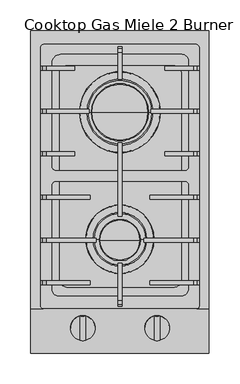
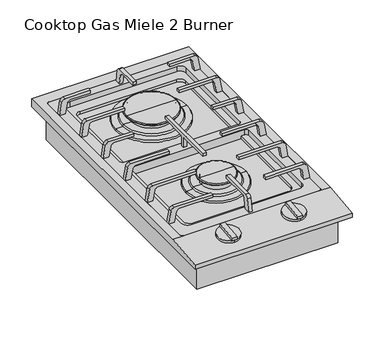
"""IFC4 building model written with IfcOpenShell, lengths in millimetres: proxy geometry, Cooktop Gas Miele 2 Burner : 288w x 57h x 520d."""

from ifc_helpers import new_model, si_unit, point, frame, frame_2d, origin, place, context, project, spatial, polyline, circle_curve, ellipse_curve, trimmed, segment, composite_curve, outline, extrude, source, transform, mapped, element, save
from ifc_brep_helpers import plane_surface, cylinder_surface, revolved_surface, advanced_brep


def cooktop_gas_miele_2_burner_c7116c69(model_context):
    return source(origin(), model_context, "Body", "SolidModel", [
        extrude(outline(polyline([(104.0, 229.0), (104.0, 209.0), (74.0, 209.0), (74.0, 229.0), (104.0, 229.0)])), frame((0.0, 0.0, 823.0), z_axis=(0.0, 0.0, 1.0), x_axis=(1.0, 0.0, 0.0)), (0.0, 0.0, 1.0), 20.0),
        extrude(outline(composite_curve([segment(trimmed(circle_curve(frame_2d((-105.0, 199.0)), 7.5), [point((-97.5, 199.0))], [point((-112.5, 199.0))], False, "CARTESIAN"), True, "CONTINUOUS"), segment(trimmed(circle_curve(frame_2d((-105.0, 199.0)), 7.5), [point((-112.5, 199.0))], [point((-97.5, 199.0))], False, "CARTESIAN"), True, "CONTINUOUS")], self_intersect=False)), frame((0.0, 0.0, 823.0), z_axis=(0.0, 0.0, 1.0), x_axis=(1.0, 0.0, 0.0)), (0.0, 0.0, 1.0), 20.0),
        advanced_brep(
        [(37.0595328, 128.75, 905.0), (-37.0595328, 128.75, 905.0), (-65.0, 128.75, 905.0), (65.0, 128.75, 905.0), (51.3290776, 128.75, 912.7121885), (-51.3290776, 128.75, 912.7121885), (-37.0595328, 128.75, 912.7121885), (37.0595328, 128.75, 912.7121885), (51.3290776, 128.75, 908.8560943), (-51.3290776, 128.75, 908.8560943), (65.0, 128.75, 908.8560943), (-65.0, 128.75, 908.8560943)],
        [
            (0, 1, circle_curve(frame((0.0, 128.75, 905.0), z_axis=(0.0, 0.0, 1.0), x_axis=(-1.0, 0.0, 0.0)), 37.0595328)),
            (1, 2),
            (2, 3, circle_curve(frame((0.0, 128.75, 905.0), z_axis=(0.0, 0.0, -1.0), x_axis=(-1.0, 0.0, 0.0)), 65.0)),
            (3, 0),
            (1, 0, circle_curve(frame((0.0, 128.75, 905.0), z_axis=(0.0, 0.0, 1.0), x_axis=(-1.0, 0.0, 0.0)), 37.0595328)),
            (3, 2, circle_curve(frame((0.0, 128.75, 905.0), z_axis=(0.0, 0.0, -1.0), x_axis=(-1.0, 0.0, 0.0)), 65.0)),
            (4, 5, circle_curve(frame((0.0, 128.75, 912.7121885), z_axis=(0.0, 0.0, 1.0), x_axis=(-1.0, 0.0, 0.0)), 51.3290776)),
            (5, 6),
            (6, 7, circle_curve(frame((0.0, 128.75, 912.7121885), z_axis=(0.0, 0.0, -1.0), x_axis=(-1.0, 0.0, 0.0)), 37.0595328)),
            (7, 4),
            (5, 4, circle_curve(frame((0.0, 128.75, 912.7121885), z_axis=(0.0, 0.0, 1.0), x_axis=(-1.0, 0.0, 0.0)), 51.3290776)),
            (7, 6, circle_curve(frame((0.0, 128.75, 912.7121885), z_axis=(0.0, 0.0, -1.0), x_axis=(-1.0, 0.0, 0.0)), 37.0595328)),
            (8, 9, circle_curve(frame((0.0, 128.75, 908.8560943), z_axis=(0.0, 0.0, 1.0), x_axis=(-1.0, 0.0, 0.0)), 51.3290776)),
            (9, 5, circle_curve(frame((-51.3290776, 128.75, 910.7841414), z_axis=(0.0, 1.0, 0.0), x_axis=(1.0, 0.0, 0.0)), 1.9280471)),
            (4, 8, circle_curve(frame((51.3290776, 128.75, 910.7841414), z_axis=(0.0, 1.0, 0.0), x_axis=(-1.0, 0.0, 0.0)), 1.9280471)),
            (9, 8, circle_curve(frame((0.0, 128.75, 908.8560943), z_axis=(0.0, 0.0, 1.0), x_axis=(-1.0, 0.0, 0.0)), 51.3290776)),
            (10, 11, circle_curve(frame((0.0, 128.75, 908.8560943), z_axis=(0.0, 0.0, 1.0), x_axis=(-1.0, 0.0, 0.0)), 65.0)),
            (11, 9),
            (8, 10),
            (11, 10, circle_curve(frame((0.0, 128.75, 908.8560943), z_axis=(0.0, 0.0, 1.0), x_axis=(-1.0, 0.0, 0.0)), 65.0)),
            (6, 1),
            (0, 7),
            (2, 11, circle_curve(frame((-60.8160662, 128.75, 906.9280471), z_axis=(0.0, 1.0, 0.0), x_axis=(1.0, 0.0, 0.0)), 4.6068066)),
            (10, 3, circle_curve(frame((60.8160662, 128.75, 906.9280471), z_axis=(0.0, 1.0, 0.0), x_axis=(-1.0, 0.0, 0.0)), 4.6068066)),
        ],
        [
            plane_surface(frame((0.0, 128.75, 905.0), z_axis=(0.0, 0.0, -1.0), x_axis=(-1.0, 0.0, 0.0))),
            plane_surface(frame((0.0, 128.75, 912.7121885), z_axis=(0.0, 0.0, 1.0), x_axis=(-1.0, 0.0, 0.0))),
            revolved_surface(trimmed(ellipse_curve(frame((-51.3290776, 128.75, 910.7841414), z_axis=(0.0, -1.0, 0.0), x_axis=(1.0, 0.0, 0.0)), 1.9280471, 1.9280471), [point((-51.3290776, 128.75, 912.7121885))], [point((-51.3290776, 128.75, 908.8560943))], True, "CARTESIAN"), (0.0, 128.75, 912.7121885), (0.0, 0.0, -1.0)),
            plane_surface(frame((0.0, 128.75, 908.8560943), z_axis=(0.0, 0.0, 1.0), x_axis=(-1.0, 0.0, 0.0))),
            revolved_surface(polyline([(-37.0595328, 128.75, 905.0), (-37.0595328, 128.75, 912.7121885)]), (0.0, 128.75, 912.7121885), (0.0, 0.0, -1.0)),
            revolved_surface(trimmed(ellipse_curve(frame((-60.8160662, 128.75, 906.9280471), z_axis=(0.0, -1.0, 0.0), x_axis=(1.0, 0.0, 0.0)), 4.6068066, 4.6068066), [point((-65.0, 128.75, 908.8560943))], [point((-65.0, 128.75, 905.0))], True, "CARTESIAN"), (0.0, 128.75, 912.7121885), (0.0, 0.0, -1.0)),
        ],
        [
            (0, [[1, 2, 3, 4]]),
            (0, [[5, -4, 6, -2]]),
            (1, [[7, 8, 9, 10]]),
            (1, [[11, -10, 12, -8]]),
            (2, [[13, 14, -7, 15]]),
            (2, [[16, -15, -11, -14]]),
            (3, [[17, 18, -13, 19]]),
            (3, [[20, -19, -16, -18]]),
            (4, [[-9, 21, -1, 22]]),
            (4, [[-12, -22, -5, -21]]),
            (5, [[-3, 23, -17, 24]]),
            (5, [[-6, -24, -20, -23]]),
        ],
    ),
        advanced_brep(
        [(144.0, 260.0, 915.0), (-144.0, 260.0, 915.0), (-144.0, -188.6167035, 915.0), (-124.0962907, -188.6167035, 915.0), (-129.0, -183.7129942, 915.0), (-129.0, 233.0419085, 915.0), (-123.0419085, 239.0, 915.0), (123.0330748, 239.0, 915.0), (128.9911662, 233.0419085, 915.0), (129.0, -184.2637426, 915.0), (124.6470391, -188.6167035, 915.0), (144.0, -188.6167035, 915.0), (144.0, 260.0, 900.0), (144.0, -260.0, 900.0), (-144.0, -260.0, 900.0), (-144.0, 260.0, 900.0), (-123.0419085, 239.0, 900.0), (-129.0, 233.0419085, 900.0), (-129.0, -183.7129942, 900.0), (-124.0962907, -188.6167035, 900.0), (124.6470391, -188.6167035, 900.0), (129.0, -184.2637426, 900.0), (129.0, 233.0874848, 900.0), (123.0330748, 239.0, 900.0), (-144.0, -260.0, 907.4973132), (144.0, -260.0, 907.4973132)],
        [
            (0, 1),
            (1, 2),
            (2, 3),
            (3, 4, circle_curve(frame((-124.0962907, -183.7129942, 915.0), z_axis=(0.0, 0.0, -1.0), x_axis=(-1.0, 0.0, 0.0)), 4.9037093)),
            (4, 5),
            (5, 6, circle_curve(frame((-123.0419085, 233.0419085, 915.0), z_axis=(0.0, 0.0, -1.0), x_axis=(-1.0, 0.0, 0.0)), 5.9580915)),
            (6, 7),
            (7, 8, circle_curve(frame((123.0330748, 233.0419085, 915.0), z_axis=(0.0, 0.0, -1.0), x_axis=(-1.0, 0.0, 0.0)), 5.9580915)),
            (8, 9),
            (9, 10, circle_curve(frame((124.6470391, -184.2637426, 915.0), z_axis=(0.0, 0.0, -1.0), x_axis=(-1.0, 0.0, 0.0)), 4.3529609)),
            (10, 11),
            (11, 0),
            (12, 13),
            (13, 14),
            (14, 15),
            (15, 12),
            (16, 17, circle_curve(frame((-123.0419085, 233.0419085, 900.0), z_axis=(0.0, 0.0, 1.0), x_axis=(-1.0, 0.0, 0.0)), 5.9580915)),
            (17, 18),
            (18, 19, circle_curve(frame((-124.0962907, -183.7129942, 900.0), z_axis=(0.0, 0.0, 1.0), x_axis=(-1.0, 0.0, 0.0)), 4.9037093)),
            (19, 20),
            (20, 21, circle_curve(frame((124.6470391, -184.2637426, 900.0), z_axis=(0.0, 0.0, 1.0), x_axis=(-1.0, 0.0, 0.0)), 4.3529609)),
            (21, 22),
            (22, 23, circle_curve(frame((123.0330748, 233.0419085, 900.0), z_axis=(0.0, 0.0, 1.0), x_axis=(-1.0, 0.0, 0.0)), 5.9580915)),
            (23, 16),
            (0, 12),
            (15, 1),
            (14, 24),
            (24, 2),
            (13, 25),
            (25, 24),
            (11, 25),
            (6, 16),
            (23, 7),
            (19, 3),
            (3, 10),
            (10, 20),
            (18, 4),
            (17, 5),
            (22, 8),
            (21, 9),
        ],
        [
            plane_surface(frame((-144.0, 260.0, 915.0), z_axis=(0.0, 0.0, 1.0), x_axis=(-1.0, 0.0, 0.0))),
            plane_surface(frame((-144.0, 260.0, 900.0), z_axis=(0.0, 0.0, -1.0), x_axis=(1.0, 0.0, 0.0))),
            plane_surface(frame((144.0, 260.0, 915.0), z_axis=(0.0, 1.0, 0.0), x_axis=(0.0, 0.0, -1.0))),
            plane_surface(frame((-144.0, 260.0, 915.0), z_axis=(-1.0, 0.0, 0.0), x_axis=(0.0, 0.0, -1.0))),
            plane_surface(frame((-144.0, -260.0, 915.0), z_axis=(0.0, -1.0, 0.0), x_axis=(0.0, 0.0, -1.0))),
            plane_surface(frame((144.0, -260.0, 915.0), z_axis=(1.0, 0.0, 0.0), x_axis=(0.0, 0.0, -1.0))),
            plane_surface(frame((-123.0419085, 239.0, 915.0), z_axis=(0.0, -1.0, 0.0), x_axis=(0.0, 0.0, -1.0))),
            plane_surface(frame((124.6470391, -188.6167035, 915.0), z_axis=(0.0, 1.0, 0.0), x_axis=(0.0, 0.0, -1.0))),
            revolved_surface(polyline([(-129.0, -183.7129942, 900.0), (-129.0, -183.7129942, 915.0)]), (-124.0962907, -183.7129942, 900.0), (0.0, 0.0, -1.0)),
            plane_surface(frame((-129.0, -183.7129942, 915.0), z_axis=(1.0, 0.0, 0.0), x_axis=(0.0, 0.0, -1.0))),
            revolved_surface(polyline([(-129.0, 233.0419085, 900.0), (-129.0, 233.0419085, 915.0)]), (-123.0419085, 233.0419085, 900.0), (0.0, 0.0, -1.0)),
            revolved_surface(polyline([(117.0749833, 233.0419085, 900.0), (117.0749833, 233.0419085, 915.0)]), (123.0330748, 233.0419085, 900.0), (0.0, 0.0, -1.0)),
            plane_surface(frame((129.0, 233.0874848, 915.0), z_axis=(-1.0, 0.0, 0.0), x_axis=(0.0, 0.0, -1.0))),
            revolved_surface(polyline([(120.2940782, -184.2637426, 900.0), (120.2940782, -184.2637426, 915.0)]), (124.6470391, -184.2637426, 900.0), (0.0, 0.0, -1.0)),
            plane_surface(frame((144.0, -260.0, 907.4973132), z_axis=(0.0, -0.1045284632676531, 0.9945218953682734), x_axis=(-1.0, 0.0, 0.0))),
        ],
        [
            (0, [[1, 2, 3, 4, 5, 6, 7, 8, 9, 10, 11, 12]]),
            (1, [[13, 14, 15, 16], [17, 18, 19, 20, 21, 22, 23, 24]]),
            (2, [[-1, 25, -16, 26]]),
            (3, [[-15, 27, 28, -2, -26]]),
            (4, [[-14, 29, 30, -27]]),
            (5, [[-13, -25, -12, 31, -29]]),
            (6, [[-7, 32, -24, 33]]),
            (7, [[-20, 34, 35, 36]]),
            (8, [[-4, -34, -19, 37]]),
            (9, [[-5, -37, -18, 38]]),
            (10, [[-6, -38, -17, -32]]),
            (11, [[-8, -33, -23, 39]]),
            (12, [[-9, -39, -22, 40]]),
            (13, [[-10, -40, -21, -36]]),
            (14, [[-3, -28, -30, -31, -11, -35]]),
        ],
    ),
        advanced_brep(
        [(0.0, 128.7475945, 908.8560943), (-37.0595328, 128.7475945, 908.8560943), (37.0595328, 128.7475945, 908.8560943), (-37.0595328, 128.7475945, 924.37), (37.0595328, 128.7475945, 924.37), (44.8695328, 128.7475945, 927.0), (-44.8695328, 128.7475945, 927.0), (0.0, 128.7475945, 927.0), (46.1845328, 128.7475945, 925.685), (-46.1845328, 128.7475945, 925.685), (46.1845328, 128.7475945, 924.37), (-46.1845328, 128.7475945, 924.37)],
        [
            (0, 1),
            (1, 2, circle_curve(frame((0.0, 128.7475945, 908.8560943), z_axis=(0.0, 0.0, -1.0), x_axis=(-1.0, 0.0, 0.0)), 37.0595328)),
            (2, 0),
            (2, 1, circle_curve(frame((0.0, 128.7475945, 908.8560943), z_axis=(0.0, 0.0, -1.0), x_axis=(-1.0, 0.0, 0.0)), 37.0595328)),
            (1, 3),
            (3, 4, circle_curve(frame((0.0, 128.7475945, 924.37), z_axis=(0.0, 0.0, -1.0), x_axis=(-1.0, 0.0, 0.0)), 37.0595328)),
            (4, 2),
            (4, 3, circle_curve(frame((0.0, 128.7475945, 924.37), z_axis=(0.0, 0.0, -1.0), x_axis=(-1.0, 0.0, 0.0)), 37.0595328)),
            (5, 6, circle_curve(frame((0.0, 128.7475945, 927.0), z_axis=(0.0, 0.0, 1.0), x_axis=(-1.0, 0.0, 0.0)), 44.8695328)),
            (6, 7),
            (7, 5),
            (6, 5, circle_curve(frame((0.0, 128.7475945, 927.0), z_axis=(0.0, 0.0, 1.0), x_axis=(-1.0, 0.0, 0.0)), 44.8695328)),
            (8, 9, circle_curve(frame((0.0, 128.7475945, 925.685), z_axis=(0.0, 0.0, 1.0), x_axis=(-1.0, 0.0, 0.0)), 46.1845328)),
            (9, 6, circle_curve(frame((-44.8695328, 128.7475945, 925.685), z_axis=(0.0, 1.0, 0.0), x_axis=(1.0, 0.0, 0.0)), 1.315)),
            (5, 8, circle_curve(frame((44.8695328, 128.7475945, 925.685), z_axis=(0.0, 1.0, 0.0), x_axis=(-1.0, 0.0, 0.0)), 1.315)),
            (9, 8, circle_curve(frame((0.0, 128.7475945, 925.685), z_axis=(0.0, 0.0, 1.0), x_axis=(-1.0, 0.0, 0.0)), 46.1845328)),
            (10, 11, circle_curve(frame((0.0, 128.7475945, 924.37), z_axis=(0.0, 0.0, 1.0), x_axis=(-1.0, 0.0, 0.0)), 46.1845328)),
            (11, 9),
            (8, 10),
            (11, 10, circle_curve(frame((0.0, 128.7475945, 924.37), z_axis=(0.0, 0.0, 1.0), x_axis=(-1.0, 0.0, 0.0)), 46.1845328)),
            (3, 11),
            (10, 4),
        ],
        [
            plane_surface(frame((0.0, 128.7475945, 908.8560943), z_axis=(0.0, 0.0, -1.0), x_axis=(-1.0, 0.0, 0.0))),
            cylinder_surface(frame((0.0, 128.7475945, 909.4072531), z_axis=(0.0, 0.0, -1.0), x_axis=(-1.0, 0.0, 0.0)), 37.0595328),
            plane_surface(frame((0.0, 128.7475945, 927.0), z_axis=(0.0, 0.0, 1.0), x_axis=(-1.0, 0.0, 0.0))),
            revolved_surface(trimmed(ellipse_curve(frame((-44.8695328, 128.7475945, 925.685), z_axis=(0.0, -1.0, 0.0), x_axis=(1.0, 0.0, 0.0)), 1.315, 1.315), [point((-44.8695328, 128.7475945, 927.0))], [point((-46.1845328, 128.7475945, 925.685))], True, "CARTESIAN"), (0.0, 128.7475945, 909.4072531), (0.0, 0.0, -1.0)),
            cylinder_surface(frame((0.0, 128.7475945, 909.4072531), z_axis=(0.0, 0.0, -1.0), x_axis=(-1.0, 0.0, 0.0)), 46.1845328),
            plane_surface(frame((0.0, 128.7475945, 924.37), z_axis=(0.0, 0.0, -1.0), x_axis=(-1.0, 0.0, 0.0))),
        ],
        [
            (0, [[1, 2, 3]]),
            (0, [[-3, 4, -1]]),
            (1, [[-2, 5, 6, 7]]),
            (1, [[-4, -7, 8, -5]]),
            (2, [[9, 10, 11]]),
            (2, [[12, -11, -10]]),
            (3, [[13, 14, -9, 15]]),
            (3, [[16, -15, -12, -14]]),
            (4, [[17, 18, -13, 19]]),
            (4, [[20, -19, -16, -18]]),
            (5, [[-6, 21, -17, 22]]),
            (5, [[-8, -22, -20, -21]]),
        ],
    ),
        advanced_brep(
        [(0.0654672, -77.5219367, 908.8547873), (-27.0595328, -77.5219367, 908.8547873), (27.1904672, -77.5219367, 908.8547873), (-27.0595328, -77.5219367, 924.3899922), (27.1904672, -77.5219367, 924.3899922), (31.8754672, -77.5219367, 927.0086828), (-31.7445328, -77.5219367, 927.0086828), (0.0654672, -77.5219367, 927.0086828), (33.1904672, -77.5219367, 925.6936828), (-33.0595328, -77.5219367, 925.6936828), (33.1904672, -77.5219367, 924.3899922), (-33.0595328, -77.5219367, 924.3899922)],
        [
            (0, 1),
            (1, 2, circle_curve(frame((0.0654672, -77.5219367, 908.8547873), z_axis=(0.0, 0.0, -1.0), x_axis=(-1.0, 0.0, 0.0)), 27.125)),
            (2, 0),
            (2, 1, circle_curve(frame((0.0654672, -77.5219367, 908.8547873), z_axis=(0.0, 0.0, -1.0), x_axis=(-1.0, 0.0, 0.0)), 27.125)),
            (1, 3),
            (3, 4, circle_curve(frame((0.0654672, -77.5219367, 924.3899922), z_axis=(0.0, 0.0, -1.0), x_axis=(-1.0, 0.0, 0.0)), 27.125)),
            (4, 2),
            (4, 3, circle_curve(frame((0.0654672, -77.5219367, 924.3899922), z_axis=(0.0, 0.0, -1.0), x_axis=(-1.0, 0.0, 0.0)), 27.125)),
            (5, 6, circle_curve(frame((0.0654672, -77.5219367, 927.0086828), z_axis=(0.0, 0.0, 1.0), x_axis=(-1.0, 0.0, 0.0)), 31.81)),
            (6, 7),
            (7, 5),
            (6, 5, circle_curve(frame((0.0654672, -77.5219367, 927.0086828), z_axis=(0.0, 0.0, 1.0), x_axis=(-1.0, 0.0, 0.0)), 31.81)),
            (8, 9, circle_curve(frame((0.0654672, -77.5219367, 925.6936828), z_axis=(0.0, 0.0, 1.0), x_axis=(-1.0, 0.0, 0.0)), 33.125)),
            (9, 6, circle_curve(frame((-31.7445328, -77.5219367, 925.6936828), z_axis=(0.0, 1.0, 0.0), x_axis=(1.0, 0.0, 0.0)), 1.315)),
            (5, 8, circle_curve(frame((31.8754672, -77.5219367, 925.6936828), z_axis=(0.0, 1.0, 0.0), x_axis=(-1.0, 0.0, 0.0)), 1.315)),
            (9, 8, circle_curve(frame((0.0654672, -77.5219367, 925.6936828), z_axis=(0.0, 0.0, 1.0), x_axis=(-1.0, 0.0, 0.0)), 33.125)),
            (10, 11, circle_curve(frame((0.0654672, -77.5219367, 924.3899922), z_axis=(0.0, 0.0, 1.0), x_axis=(-1.0, 0.0, 0.0)), 33.125)),
            (11, 9),
            (8, 10),
            (11, 10, circle_curve(frame((0.0654672, -77.5219367, 924.3899922), z_axis=(0.0, 0.0, 1.0), x_axis=(-1.0, 0.0, 0.0)), 33.125)),
            (3, 11),
            (10, 4),
        ],
        [
            plane_surface(frame((0.0654672, -77.5219367, 908.8547873), z_axis=(0.0, 0.0, -1.0), x_axis=(-1.0, 0.0, 0.0))),
            cylinder_surface(frame((0.0654672, -77.5219367, 908.7683721), z_axis=(0.0, 0.0, -1.0), x_axis=(-1.0, 0.0, 0.0)), 27.125),
            plane_surface(frame((0.0654672, -77.5219367, 927.0086828), z_axis=(0.0, 0.0, 1.0), x_axis=(-1.0, 0.0, 0.0))),
            revolved_surface(trimmed(ellipse_curve(frame((-31.7445328, -77.5219367, 925.6936828), z_axis=(0.0, -1.0, 0.0), x_axis=(1.0, 0.0, 0.0)), 1.315, 1.315), [point((-31.7445328, -77.5219367, 927.0086828))], [point((-33.0595328, -77.5219367, 925.6936828))], True, "CARTESIAN"), (0.0654672, -77.5219367, 908.7683721), (0.0, 0.0, -1.0)),
            cylinder_surface(frame((0.0654672, -77.5219367, 908.7683721), z_axis=(0.0, 0.0, -1.0), x_axis=(-1.0, 0.0, 0.0)), 33.125),
            plane_surface(frame((0.0654672, -77.5219367, 924.3899922), z_axis=(0.0, 0.0, -1.0), x_axis=(-1.0, 0.0, 0.0))),
        ],
        [
            (0, [[1, 2, 3]]),
            (0, [[-3, 4, -1]]),
            (1, [[-2, 5, 6, 7]]),
            (1, [[-4, -7, 8, -5]]),
            (2, [[9, 10, 11]]),
            (2, [[12, -11, -10]]),
            (3, [[13, 14, -9, 15]]),
            (3, [[16, -15, -12, -14]]),
            (4, [[17, 18, -13, 19]]),
            (4, [[20, -19, -16, -18]]),
            (5, [[-6, 21, -17, 22]]),
            (5, [[-8, -22, -20, -21]]),
        ],
    ),
        advanced_brep(
        [(27.0595328, -76.25, 905.0), (-27.0595328, -76.25, 905.0), (-55.0, -76.25, 905.0), (55.0, -76.25, 905.0), (41.3290776, -76.25, 912.7121885), (-41.3290776, -76.25, 912.7121885), (-27.0595328, -76.25, 912.7121885), (27.0595328, -76.25, 912.7121885), (41.3290776, -76.25, 908.8560943), (-41.3290776, -76.25, 908.8560943), (55.0, -76.25, 908.8560943), (-55.0, -76.25, 908.8560943)],
        [
            (0, 1, circle_curve(frame((0.0, -76.25, 905.0), z_axis=(0.0, 0.0, 1.0), x_axis=(-1.0, 0.0, 0.0)), 27.0595328)),
            (1, 2),
            (2, 3, circle_curve(frame((0.0, -76.25, 905.0), z_axis=(0.0, 0.0, -1.0), x_axis=(-1.0, 0.0, 0.0)), 55.0)),
            (3, 0),
            (1, 0, circle_curve(frame((0.0, -76.25, 905.0), z_axis=(0.0, 0.0, 1.0), x_axis=(-1.0, 0.0, 0.0)), 27.0595328)),
            (3, 2, circle_curve(frame((0.0, -76.25, 905.0), z_axis=(0.0, 0.0, -1.0), x_axis=(-1.0, 0.0, 0.0)), 55.0)),
            (4, 5, circle_curve(frame((0.0, -76.25, 912.7121885), z_axis=(0.0, 0.0, 1.0), x_axis=(-1.0, 0.0, 0.0)), 41.3290776)),
            (5, 6),
            (6, 7, circle_curve(frame((0.0, -76.25, 912.7121885), z_axis=(0.0, 0.0, -1.0), x_axis=(-1.0, 0.0, 0.0)), 27.0595328)),
            (7, 4),
            (5, 4, circle_curve(frame((0.0, -76.25, 912.7121885), z_axis=(0.0, 0.0, 1.0), x_axis=(-1.0, 0.0, 0.0)), 41.3290776)),
            (7, 6, circle_curve(frame((0.0, -76.25, 912.7121885), z_axis=(0.0, 0.0, -1.0), x_axis=(-1.0, 0.0, 0.0)), 27.0595328)),
            (8, 9, circle_curve(frame((0.0, -76.25, 908.8560943), z_axis=(0.0, 0.0, 1.0), x_axis=(-1.0, 0.0, 0.0)), 41.3290776)),
            (9, 5, circle_curve(frame((-41.3290776, -76.25, 910.7841414), z_axis=(0.0, 1.0, 0.0), x_axis=(1.0, 0.0, 0.0)), 1.9280471)),
            (4, 8, circle_curve(frame((41.3290776, -76.25, 910.7841414), z_axis=(0.0, 1.0, 0.0), x_axis=(-1.0, 0.0, 0.0)), 1.9280471)),
            (9, 8, circle_curve(frame((0.0, -76.25, 908.8560943), z_axis=(0.0, 0.0, 1.0), x_axis=(-1.0, 0.0, 0.0)), 41.3290776)),
            (10, 11, circle_curve(frame((0.0, -76.25, 908.8560943), z_axis=(0.0, 0.0, 1.0), x_axis=(-1.0, 0.0, 0.0)), 55.0)),
            (11, 9),
            (8, 10),
            (11, 10, circle_curve(frame((0.0, -76.25, 908.8560943), z_axis=(0.0, 0.0, 1.0), x_axis=(-1.0, 0.0, 0.0)), 55.0)),
            (6, 1),
            (0, 7),
            (2, 11, circle_curve(frame((-50.8160662, -76.25, 906.9280471), z_axis=(0.0, 1.0, 0.0), x_axis=(1.0, 0.0, 0.0)), 4.6068066)),
            (10, 3, circle_curve(frame((50.8160662, -76.25, 906.9280471), z_axis=(0.0, 1.0, 0.0), x_axis=(-1.0, 0.0, 0.0)), 4.6068066)),
        ],
        [
            plane_surface(frame((0.0, -76.25, 905.0), z_axis=(0.0, 0.0, -1.0), x_axis=(-1.0, 0.0, 0.0))),
            plane_surface(frame((0.0, -76.25, 912.7121885), z_axis=(0.0, 0.0, 1.0), x_axis=(-1.0, 0.0, 0.0))),
            revolved_surface(trimmed(ellipse_curve(frame((-41.3290776, -76.25, 910.7841414), z_axis=(0.0, -1.0, 0.0), x_axis=(1.0, 0.0, 0.0)), 1.9280471, 1.9280471), [point((-41.3290776, -76.25, 912.7121885))], [point((-41.3290776, -76.25, 908.8560943))], True, "CARTESIAN"), (0.0, -76.25, 912.7121885), (0.0, 0.0, -1.0)),
            plane_surface(frame((0.0, -76.25, 908.8560943), z_axis=(0.0, 0.0, 1.0), x_axis=(-1.0, 0.0, 0.0))),
            revolved_surface(polyline([(-27.0595328, -76.25, 905.0), (-27.0595328, -76.25, 912.7121885)]), (0.0, -76.25, 912.7121885), (0.0, 0.0, -1.0)),
            revolved_surface(trimmed(ellipse_curve(frame((-50.8160662, -76.25, 906.9280471), z_axis=(0.0, -1.0, 0.0), x_axis=(1.0, 0.0, 0.0)), 4.6068066, 4.6068066), [point((-55.0, -76.25, 908.8560943))], [point((-55.0, -76.25, 905.0))], True, "CARTESIAN"), (0.0, -76.25, 912.7121885), (0.0, 0.0, -1.0)),
        ],
        [
            (0, [[1, 2, 3, 4]]),
            (0, [[5, -4, 6, -2]]),
            (1, [[7, 8, 9, 10]]),
            (1, [[11, -10, 12, -8]]),
            (2, [[13, 14, -7, 15]]),
            (2, [[16, -15, -11, -14]]),
            (3, [[17, 18, -13, 19]]),
            (3, [[20, -19, -16, -18]]),
            (4, [[-9, 21, -1, 22]]),
            (4, [[-12, -22, -5, -21]]),
            (5, [[-3, 23, -17, 24]]),
            (5, [[-6, -24, -20, -23]]),
        ],
    ),
        extrude(outline(composite_curve([segment(trimmed(circle_curve(frame_2d((100.2040794, 211.4995173)), 10.6066017), [point((100.2040794, 222.106119))], [point((110.8106811, 211.4995173))], False, "CARTESIAN"), True, "CONTINUOUS"), segment(polyline([(110.8106811, 211.4995173), (110.8106811, -155.3971727)]), True, "CONTINUOUS"), segment(trimmed(circle_curve(frame_2d((99.1728993, -155.9897592)), 11.6528591), [point((110.8106811, -155.3971727))], [point((99.1728993, -167.6426183))], False, "CARTESIAN"), True, "CONTINUOUS"), segment(polyline([(99.1728993, -167.6426183), (-99.3314545, -167.6426183)]), True, "CONTINUOUS"), segment(trimmed(circle_curve(frame_2d((-99.3314545, -157.0360166)), 10.6066017), [point((-99.3314545, -167.6426183))], [point((-109.9380562, -157.0360166))], False, "CARTESIAN"), True, "CONTINUOUS"), segment(polyline([(-109.9380562, -157.0360166), (-109.9380562, 207.9639834)]), True, "CONTINUOUS"), segment(trimmed(circle_curve(frame_2d((-95.7959206, 207.9639834)), 14.1421356), [point((-109.9380562, 207.9639834))], [point((-95.7959206, 222.106119))], False, "CARTESIAN"), True, "CONTINUOUS"), segment(polyline([(-95.7959206, 222.106119), (100.2040794, 222.106119)]), True, "CONTINUOUS")], self_intersect=False), holes=[composite_curve([segment(polyline([(88.6380255, 203.5448102), (-88.1478537, 203.5448102)]), True, "CONTINUOUS"), segment(trimmed(circle_curve(frame_2d((-88.1478537, 193.7651797)), 9.7796304), [point((-88.1478537, 203.5448102))], [point((-97.9274841, 193.7651797))], True, "CARTESIAN"), True, "CONTINUOUS"), segment(polyline([(-97.9274841, 193.7651797), (-97.9274841, -141.2348203)]), True, "CONTINUOUS"), segment(trimmed(circle_curve(frame_2d((-85.9664943, -141.5567787)), 11.9653222), [point((-97.9274841, -141.2348203))], [point((-85.9664943, -153.5221009))], True, "CARTESIAN"), True, "CONTINUOUS"), segment(polyline([(-85.9664943, -153.5221009), (87.7843178, -153.5221009)]), True, "CONTINUOUS"), segment(trimmed(circle_curve(frame_2d((87.7843178, -142.0617916)), 11.4603094), [point((87.7843178, -153.5221009))], [point((99.2446272, -142.0617916))], True, "CARTESIAN"), True, "CONTINUOUS"), segment(polyline([(99.2446272, -142.0617916), (99.2446272, 192.9382084)]), True, "CONTINUOUS"), segment(trimmed(circle_curve(frame_2d((88.6380255, 192.9382084)), 10.6066017), [point((99.2446272, 192.9382084))], [point((88.6380255, 203.5448102))], True, "CARTESIAN"), True, "CONTINUOUS")], self_intersect=False)]), frame((0.0, 0.0, 900.0), z_axis=(0.0, 0.0, 1.0), x_axis=(1.0, 0.0, 0.0)), (0.0, 0.0, 1.0), 5.0),
        advanced_brep(
        [(123.0330748, 239.0, 915.0), (-123.0419085, 239.0, 915.0), (-129.0, 233.0419085, 915.0), (-129.0, -183.7129942, 915.0), (-124.0962907, -188.6167035, 915.0), (124.6470391, -188.6167035, 915.0), (129.0, -184.2637426, 915.0), (129.0, 233.0419085, 915.0), (99.1728993, -167.6426183, 915.0), (-99.3314545, -167.6426183, 915.0), (-109.9380562, -157.0360166, 915.0), (-109.9380562, 9.8002388, 915.0), (-103.0359437, 16.7023513, 915.0), (105.1502695, 16.7023513, 915.0), (110.8106811, 11.8433552, 915.0), (110.8106811, -155.3971727, 915.0), (-95.7959206, 222.106119, 915.0), (100.2040794, 222.106119, 915.0), (110.8106811, 211.4995173, 915.0), (110.8106811, 40.1416861, 915.0), (103.7396133, 35.1644877, 915.0), (-105.0936724, 35.1644877, 915.0), (-109.9380562, 42.377728, 915.0), (-109.9380562, 207.9639834, 915.0), (123.0330748, 239.0, 900.0), (128.9911662, 233.0419085, 900.0), (129.0, -184.2637426, 900.0), (124.6470391, -188.6167035, 900.0), (-124.0962907, -188.6167035, 900.0), (-129.0, -183.7129942, 900.0), (-129.0, 233.0419085, 900.0), (-123.0419085, 239.0, 900.0), (-95.7959206, 222.106119, 900.0), (-109.9380562, 207.9639834, 900.0), (-109.9380562, 42.377728, 900.0), (-105.0936724, 35.1644877, 900.0), (103.7396133, 35.1644877, 900.0), (110.8106811, 40.1416861, 900.0), (110.8106811, 211.4995173, 900.0), (100.2040794, 222.106119, 900.0), (99.1728993, -167.6426183, 900.0), (110.8106811, -155.3971727, 900.0), (110.8106811, 11.8433552, 900.0), (105.1502695, 16.7023513, 900.0), (-103.0359437, 16.7023513, 900.0), (-109.9380562, 9.8002388, 900.0), (-109.9380562, -157.0360166, 900.0), (-99.3314545, -167.6426183, 900.0)],
        [
            (0, 1),
            (1, 2, circle_curve(frame((-123.0419085, 233.0419085, 915.0), z_axis=(0.0, 0.0, 1.0), x_axis=(1.0, 0.0, 0.0)), 5.9580915)),
            (2, 3),
            (3, 4, circle_curve(frame((-124.0962907, -183.7129942, 915.0), z_axis=(0.0, 0.0, 1.0), x_axis=(1.0, 0.0, 0.0)), 4.9037093)),
            (4, 5),
            (5, 6, circle_curve(frame((124.6470391, -184.2637426, 915.0), z_axis=(0.0, 0.0, 1.0), x_axis=(1.0, 0.0, 0.0)), 4.3529609)),
            (6, 7),
            (7, 0, circle_curve(frame((123.0330748, 233.0419085, 915.0), z_axis=(0.0, 0.0, 1.0), x_axis=(1.0, 0.0, 0.0)), 5.9580915)),
            (8, 9),
            (9, 10, circle_curve(frame((-99.3314545, -157.0360166, 915.0), z_axis=(0.0, 0.0, -1.0), x_axis=(1.0, 0.0, 0.0)), 10.6066017)),
            (10, 11),
            (11, 12, circle_curve(frame((-103.0359437, 9.8002388, 915.0), z_axis=(0.0, 0.0, -1.0), x_axis=(1.0, 0.0, 0.0)), 6.9021125)),
            (12, 13),
            (13, 14, circle_curve(frame((105.1502695, 10.9758492, 915.0), z_axis=(0.0, 0.0, -1.0), x_axis=(1.0, 0.0, 0.0)), 5.7265021)),
            (14, 15),
            (15, 8, circle_curve(frame((99.1728993, -155.9897592, 915.0), z_axis=(0.0, 0.0, -1.0), x_axis=(1.0, 0.0, 0.0)), 11.6528591)),
            (16, 17),
            (17, 18, circle_curve(frame((100.2040794, 211.4995173, 915.0), z_axis=(0.0, 0.0, -1.0), x_axis=(1.0, 0.0, 0.0)), 10.6066017)),
            (18, 19),
            (19, 20, circle_curve(frame((105.5234666, 40.1416861, 915.0), z_axis=(0.0, 0.0, -1.0), x_axis=(1.0, 0.0, 0.0)), 5.2872145)),
            (20, 21),
            (21, 22, circle_curve(frame((-102.1456421, 42.377728, 915.0), z_axis=(0.0, 0.0, -1.0), x_axis=(1.0, 0.0, 0.0)), 7.7924141)),
            (22, 23),
            (23, 16, circle_curve(frame((-95.7959206, 207.9639834, 915.0), z_axis=(0.0, 0.0, -1.0), x_axis=(1.0, 0.0, 0.0)), 14.1421356)),
            (24, 25, circle_curve(frame((123.0330748, 233.0419085, 900.0), z_axis=(0.0, 0.0, -1.0), x_axis=(1.0, 0.0, 0.0)), 5.9580915)),
            (25, 26),
            (26, 27, circle_curve(frame((124.6470391, -184.2637426, 900.0), z_axis=(0.0, 0.0, -1.0), x_axis=(1.0, 0.0, 0.0)), 4.3529609)),
            (27, 28),
            (28, 29, circle_curve(frame((-124.0962907, -183.7129942, 900.0), z_axis=(0.0, 0.0, -1.0), x_axis=(1.0, 0.0, 0.0)), 4.9037093)),
            (29, 30),
            (30, 31, circle_curve(frame((-123.0419085, 233.0419085, 900.0), z_axis=(0.0, 0.0, -1.0), x_axis=(1.0, 0.0, 0.0)), 5.9580915)),
            (31, 24),
            (32, 33, circle_curve(frame((-95.7959206, 207.9639834, 900.0), z_axis=(0.0, 0.0, 1.0), x_axis=(1.0, 0.0, 0.0)), 14.1421356)),
            (33, 34),
            (34, 35, circle_curve(frame((-102.1456421, 42.377728, 900.0), z_axis=(0.0, 0.0, 1.0), x_axis=(1.0, 0.0, 0.0)), 7.7924141)),
            (35, 36),
            (36, 37, circle_curve(frame((105.5234666, 40.1416861, 900.0), z_axis=(0.0, 0.0, 1.0), x_axis=(1.0, 0.0, 0.0)), 5.2872145)),
            (37, 38),
            (38, 39, circle_curve(frame((100.2040794, 211.4995173, 900.0), z_axis=(0.0, 0.0, 1.0), x_axis=(1.0, 0.0, 0.0)), 10.6066017)),
            (39, 32),
            (40, 41, circle_curve(frame((99.1728993, -155.9897592, 900.0), z_axis=(0.0, 0.0, 1.0), x_axis=(1.0, 0.0, 0.0)), 11.6528591)),
            (41, 42),
            (42, 43, circle_curve(frame((105.1502695, 10.9758492, 900.0), z_axis=(0.0, 0.0, 1.0), x_axis=(1.0, 0.0, 0.0)), 5.7265021)),
            (43, 44),
            (44, 45, circle_curve(frame((-103.0359437, 9.8002388, 900.0), z_axis=(0.0, 0.0, 1.0), x_axis=(1.0, 0.0, 0.0)), 6.9021125)),
            (45, 46),
            (46, 47, circle_curve(frame((-99.3314545, -157.0360166, 900.0), z_axis=(0.0, 0.0, 1.0), x_axis=(1.0, 0.0, 0.0)), 10.6066017)),
            (47, 40),
            (0, 24),
            (31, 1),
            (30, 2),
            (29, 3),
            (28, 4),
            (27, 5),
            (26, 6),
            (25, 7),
            (8, 40),
            (47, 9),
            (46, 10),
            (45, 11),
            (23, 33),
            (32, 16),
            (39, 17),
            (38, 18),
            (14, 42),
            (41, 15),
            (44, 12),
            (43, 13),
            (37, 19),
            (36, 20),
            (35, 21),
            (34, 22),
        ],
        [
            plane_surface(frame((-122.0419085, 239.0, 915.0), z_axis=(0.0, 0.0, 1.0), x_axis=(-1.0, 0.0, 0.0))),
            plane_surface(frame((-122.0419085, 239.0, 900.0), z_axis=(0.0, 0.0, -1.0), x_axis=(1.0, 0.0, 0.0))),
            plane_surface(frame((123.0330748, 239.0, 915.0), z_axis=(0.0, 1.0, 0.0), x_axis=(0.0, 0.0, -1.0))),
            cylinder_surface(frame((-123.0419085, 233.0419085, 900.0), z_axis=(0.0, 0.0, 1.0), x_axis=(1.0, 0.0, 0.0)), 5.9580915),
            plane_surface(frame((-129.0, 233.0419085, 915.0), z_axis=(-1.0, 0.0, 0.0), x_axis=(0.0, 0.0, -1.0))),
            cylinder_surface(frame((-124.0962907, -183.7129942, 900.0), z_axis=(0.0, 0.0, 1.0), x_axis=(1.0, 0.0, 0.0)), 4.9037093),
            plane_surface(frame((-124.0962907, -188.6167035, 915.0), z_axis=(0.0, -1.0, 0.0), x_axis=(0.0, 0.0, -1.0))),
            cylinder_surface(frame((124.6470391, -184.2637426, 900.0), z_axis=(0.0, 0.0, 1.0), x_axis=(1.0, 0.0, 0.0)), 4.3529609),
            plane_surface(frame((129.0, -184.2637426, 915.0), z_axis=(1.0, 0.0, 0.0), x_axis=(0.0, 0.0, -1.0))),
            plane_surface(frame((99.1728993, -167.6426183, 915.0), z_axis=(0.0, 1.0, 0.0), x_axis=(0.0, 0.0, -1.0))),
            revolved_surface(polyline([(-88.72485280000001, -157.0360166, 900.0), (-88.72485280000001, -157.0360166, 915.0)]), (-99.3314545, -157.0360166, 257.0), (0.0, 0.0, -1.0)),
            plane_surface(frame((-109.9380562, -157.0360166, 915.0), z_axis=(1.0, 0.0, 0.0), x_axis=(0.0, 0.0, -1.0))),
            revolved_surface(polyline([(-81.653785, 207.9639834, 900.0), (-81.653785, 207.9639834, 915.0)]), (-95.7959206, 207.9639834, 257.0), (0.0, 0.0, -1.0)),
            plane_surface(frame((-95.7959206, 222.106119, 915.0), z_axis=(0.0, -1.0, 0.0), x_axis=(0.0, 0.0, -1.0))),
            cylinder_surface(frame((123.0330748, 233.0419085, 900.0), z_axis=(0.0, 0.0, 1.0), x_axis=(1.0, 0.0, 0.0)), 5.9580915),
            revolved_surface(polyline([(110.8106811, 211.4995173, 900.0), (110.8106811, 211.4995173, 915.0)]), (100.2040794, 211.4995173, 257.0), (0.0, 0.0, -1.0)),
            plane_surface(frame((110.8106811, 11.8433552, 915.0), z_axis=(-1.0, 0.0, 0.0), x_axis=(0.0, 0.0, -1.0))),
            revolved_surface(polyline([(110.8257584, -155.9897592, 900.0), (110.8257584, -155.9897592, 915.0)]), (99.1728993, -155.9897592, 257.0), (0.0, 0.0, -1.0)),
            revolved_surface(polyline([(-96.1338312, 9.8002388, 900.0), (-96.1338312, 9.8002388, 915.0)]), (-103.0359437, 9.8002388, 257.0), (0.0, 0.0, -1.0)),
            plane_surface(frame((-103.0359437, 16.7023513, 915.0), z_axis=(0.0, -1.0, 0.0), x_axis=(0.0, 0.0, -1.0))),
            revolved_surface(polyline([(110.8767716, 10.9758492, 900.0), (110.8767716, 10.9758492, 915.0)]), (105.1502695, 10.9758492, 257.0), (0.0, 0.0, -1.0)),
            plane_surface(frame((110.8106811, 211.4995173, 915.0), z_axis=(-1.0, 0.0, 0.0), x_axis=(0.0, 0.0, -1.0))),
            revolved_surface(polyline([(110.81068110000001, 40.1416861, 900.0), (110.81068110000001, 40.1416861, 915.0)]), (105.5234666, 40.1416861, 257.0), (0.0, 0.0, -1.0)),
            plane_surface(frame((103.7396133, 35.1644877, 915.0), z_axis=(0.0, 1.0, 0.0), x_axis=(0.0, 0.0, -1.0))),
            revolved_surface(polyline([(-94.353228, 42.377728, 900.0), (-94.353228, 42.377728, 915.0)]), (-102.1456421, 42.377728, 257.0), (0.0, 0.0, -1.0)),
            plane_surface(frame((-109.9380562, 42.377728, 915.0), z_axis=(1.0, 0.0, 0.0), x_axis=(0.0, 0.0, -1.0))),
        ],
        [
            (0, [[1, 2, 3, 4, 5, 6, 7, 8], [9, 10, 11, 12, 13, 14, 15, 16], [17, 18, 19, 20, 21, 22, 23, 24]]),
            (1, [[25, 26, 27, 28, 29, 30, 31, 32], [33, 34, 35, 36, 37, 38, 39, 40], [41, 42, 43, 44, 45, 46, 47, 48]]),
            (2, [[-1, 49, -32, 50]]),
            (3, [[-2, -50, -31, 51]]),
            (4, [[-3, -51, -30, 52]]),
            (5, [[-4, -52, -29, 53]]),
            (6, [[-5, -53, -28, 54]]),
            (7, [[-6, -54, -27, 55]]),
            (8, [[-7, -55, -26, 56]]),
            (9, [[-9, 57, -48, 58]]),
            (10, [[-10, -58, -47, 59]]),
            (11, [[-11, -59, -46, 60]]),
            (12, [[-24, 61, -33, 62]]),
            (13, [[-17, -62, -40, 63]]),
            (14, [[-8, -56, -25, -49]]),
            (15, [[-18, -63, -39, 64]]),
            (16, [[-15, 65, -42, 66]]),
            (17, [[-16, -66, -41, -57]]),
            (18, [[-12, -60, -45, 67]]),
            (19, [[-13, -67, -44, 68]]),
            (20, [[-14, -68, -43, -65]]),
            (21, [[-19, -64, -38, 69]]),
            (22, [[-20, -69, -37, 70]]),
            (23, [[-21, -70, -36, 71]]),
            (24, [[-22, -71, -35, 72]]),
            (25, [[-23, -72, -34, -61]]),
        ],
    ),
        extrude(outline(polyline([(129.0, 239.0), (129.0, -239.0), (-129.0, -239.0), (-129.0, 239.0), (129.0, 239.0)])), frame((0.0, 0.0, 843.0), z_axis=(0.0, 0.0, 1.0), x_axis=(1.0, 0.0, 0.0)), (0.0, 0.0, 1.0), 57.0),
        extrude(outline(composite_curve([segment(polyline([(4.4731947, -0.5066542), (4.4731947, -39.4933458)]), True, "CONTINUOUS"), segment(trimmed(circle_curve(frame_2d((0.0, -20.0)), 20.0), [point((4.4731947, -39.4933458))], [point((-4.5268053, -39.480966))], False, "CARTESIAN"), True, "CONTINUOUS"), segment(polyline([(-4.5268053, -39.480966), (-4.5268053, -0.5190341)]), True, "CONTINUOUS"), segment(trimmed(circle_curve(frame_2d((0.0, -20.0)), 20.0), [point((-4.5268053, -0.5190341))], [point((4.4731947, -0.5066542))], False, "CARTESIAN"), True, "CONTINUOUS")], self_intersect=False)), frame((-60.0682118, -239.5636582, 914.6728007), z_axis=(0.0, -0.1045284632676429, 0.9945218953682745), x_axis=(-1.0, 0.0, 0.0)), (0.0, 0.0, 1.0), 5.0),
        extrude(outline(composite_curve([segment(trimmed(circle_curve(frame_2d((0.0, -20.0)), 20.0), [point((0.0, -40.0))], [point((0.0, 0.0))], False, "CARTESIAN"), True, "CONTINUOUS"), segment(trimmed(circle_curve(frame_2d((0.0, -20.0)), 20.0), [point((0.0, 0.0))], [point((0.0, -40.0))], False, "CARTESIAN"), True, "CONTINUOUS")], self_intersect=False)), frame((-60.0682118, -239.0410159, 909.7001912), z_axis=(0.0, -0.1045284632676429, 0.9945218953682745), x_axis=(-1.0, 0.0, 0.0)), (0.0, 0.0, 1.0), 5.0),
        extrude(outline(composite_curve([segment(polyline([(182.2438021, 944.5), (225.0346285, 944.5)]), True, "CONTINUOUS"), segment(trimmed(circle_curve(frame_2d((223.6921595, 936.9030687)), 7.7146347), [point((225.0346285, 944.5))], [point((231.0330637, 939.2751382))], False, "CARTESIAN"), True, "CONTINUOUS"), segment(polyline([(231.0330637, 939.2751382), (235.3134255, 915.0), (225.1591594, 915.0), (221.7835125, 934.1442451)]), True, "CONTINUOUS"), segment(trimmed(circle_curve(frame_2d((213.4692626, 931.1857501)), 8.824933), [point((221.7835125, 934.1442451))], [point((216.4277576, 939.5))], True, "CARTESIAN"), True, "CONTINUOUS"), segment(polyline([(216.4277576, 939.5), (182.2438021, 939.5), (182.2438021, 944.5)]), True, "CONTINUOUS")], self_intersect=False)), frame((-3.2471412, 0.0, 0.0), z_axis=(1.0, 0.0, 0.0), x_axis=(0.0, 1.0, 0.0)), (0.0, 0.0, 1.0), 6.4942823),
        extrude(outline(composite_curve([segment(polyline([(-115.0, 944.5), (-115.0, 939.5), (-166.4277576, 939.5)]), True, "CONTINUOUS"), segment(trimmed(circle_curve(frame_2d((-163.4692626, 931.1857501)), 8.824933), [point((-166.4277576, 939.5))], [point((-171.7835125, 934.1442451))], True, "CARTESIAN"), True, "CONTINUOUS"), segment(polyline([(-171.7835125, 934.1442451), (-175.1591594, 915.0), (-185.3134255, 915.0), (-181.0330637, 939.2751382)]), True, "CONTINUOUS"), segment(trimmed(circle_curve(frame_2d((-173.6921595, 936.9030687)), 7.7146347), [point((-181.0330637, 939.2751382))], [point((-175.0346285, 944.5))], False, "CARTESIAN"), True, "CONTINUOUS"), segment(polyline([(-175.0346285, 944.5), (-115.0, 944.5)]), True, "CONTINUOUS")], self_intersect=False)), frame((-3.2471412, 0.0, 0.0), z_axis=(1.0, 0.0, 0.0), x_axis=(0.0, 1.0, 0.0)), (0.0, 0.0, 1.0), 6.4942823),
        extrude(outline(composite_curve([segment(polyline([(79.8911446, 940.949708), (79.8911446, 935.9497044), (31.3606324, 935.9497044)]), True, "CONTINUOUS"), segment(trimmed(circle_curve(frame_2d((31.3606324, 931.9497044)), 4.0), [point((31.3606324, 935.9497044))], [point((27.3606324, 931.9497044))], True, "CARTESIAN"), True, "CONTINUOUS"), segment(polyline([(27.3606324, 931.9497044), (27.3606324, 915.0), (22.472168, 915.0), (22.472168, 931.9277095)]), True, "CONTINUOUS"), segment(trimmed(circle_curve(frame_2d((18.4501731, 931.9277095)), 4.0219949), [point((22.472168, 931.9277095))], [point((18.4501731, 935.9497044))], True, "CARTESIAN"), True, "CONTINUOUS"), segment(polyline([(18.4501731, 935.9497044), (-39.2347781, 935.9497044), (-39.2347781, 940.949708), (79.8911446, 940.949708)]), True, "CONTINUOUS")], self_intersect=False)), frame((-3.2471412, 0.0, 0.0), z_axis=(1.0, 0.0, 0.0), x_axis=(0.0, 1.0, 0.0)), (0.0, 0.0, 1.0), 6.4942823),
        extrude(outline(composite_curve([segment(polyline([(944.5, 48.5649727), (939.5, 48.5649727), (939.5, 110.012807)]), True, "CONTINUOUS"), segment(trimmed(circle_curve(frame_2d((931.1857501, 107.054312)), 8.824933), [point((939.5, 110.012807))], [point((934.1442451, 115.3685619))], True, "CARTESIAN"), True, "CONTINUOUS"), segment(polyline([(934.1442451, 115.3685619), (915.0, 118.7442088), (915.0, 128.8984749), (939.2751382, 124.6181131)]), True, "CONTINUOUS"), segment(trimmed(circle_curve(frame_2d((936.9030687, 117.2772089)), 7.7146347), [point((939.2751382, 124.6181131))], [point((944.5, 118.6196779))], False, "CARTESIAN"), True, "CONTINUOUS"), segment(polyline([(944.5, 118.6196779), (944.5, 48.5649727)]), True, "CONTINUOUS")], self_intersect=False)), frame((0.0, -149.8098687, 0.0), z_axis=(0.0, 1.0, 0.0), x_axis=(0.0, 0.0, 1.0)), (0.0, 0.0, 1.0), 6.4942823),
        extrude(outline(composite_curve([segment(polyline([(944.5, -48.5649727), (944.5, -118.6196779)]), True, "CONTINUOUS"), segment(trimmed(circle_curve(frame_2d((936.9030687, -117.2772089)), 7.7146347), [point((944.5, -118.6196779))], [point((939.2751382, -124.6181131))], False, "CARTESIAN"), True, "CONTINUOUS"), segment(polyline([(939.2751382, -124.6181131), (915.0, -128.8984749), (915.0, -118.7442088), (934.1442451, -115.3685619)]), True, "CONTINUOUS"), segment(trimmed(circle_curve(frame_2d((931.1857501, -107.054312)), 8.824933), [point((934.1442451, -115.3685619))], [point((939.5, -110.012807))], True, "CARTESIAN"), True, "CONTINUOUS"), segment(polyline([(939.5, -110.012807), (939.5, -48.5649727), (944.5, -48.5649727)]), True, "CONTINUOUS")], self_intersect=False)), frame((0.0, -149.8098687, 0.0), z_axis=(0.0, 1.0, 0.0), x_axis=(0.0, 0.0, 1.0)), (0.0, 0.0, 1.0), 6.4942823),
        extrude(outline(composite_curve([segment(polyline([(944.5, 48.5649727), (939.5, 48.5649727), (939.5, 110.012807)]), True, "CONTINUOUS"), segment(trimmed(circle_curve(frame_2d((931.1857501, 107.054312)), 8.824933), [point((939.5, 110.012807))], [point((934.1442451, 115.3685619))], True, "CARTESIAN"), True, "CONTINUOUS"), segment(polyline([(934.1442451, 115.3685619), (915.0, 118.7442088), (915.0, 128.8984749), (939.2751382, 124.6181131)]), True, "CONTINUOUS"), segment(trimmed(circle_curve(frame_2d((936.9030687, 117.2772089)), 7.7146347), [point((939.2751382, 124.6181131))], [point((944.5, 118.6196779))], False, "CARTESIAN"), True, "CONTINUOUS"), segment(polyline([(944.5, 118.6196779), (944.5, 48.5649727)]), True, "CONTINUOUS")], self_intersect=False)), frame((0.0, -11.6848687, 0.0), z_axis=(0.0, 1.0, 0.0), x_axis=(0.0, 0.0, 1.0)), (0.0, 0.0, 1.0), 6.4942823),
        extrude(outline(composite_curve([segment(polyline([(944.5, -48.5649727), (944.5, -118.6196779)]), True, "CONTINUOUS"), segment(trimmed(circle_curve(frame_2d((936.9030687, -117.2772089)), 7.7146347), [point((944.5, -118.6196779))], [point((939.2751382, -124.6181131))], False, "CARTESIAN"), True, "CONTINUOUS"), segment(polyline([(939.2751382, -124.6181131), (915.0, -128.8984749), (915.0, -118.7442088), (934.1442451, -115.3685619)]), True, "CONTINUOUS"), segment(trimmed(circle_curve(frame_2d((931.1857501, -107.054312)), 8.824933), [point((934.1442451, -115.3685619))], [point((939.5, -110.012807))], True, "CARTESIAN"), True, "CONTINUOUS"), segment(polyline([(939.5, -110.012807), (939.5, -48.5649727), (944.5, -48.5649727)]), True, "CONTINUOUS")], self_intersect=False)), frame((0.0, -11.6848687, 0.0), z_axis=(0.0, 1.0, 0.0), x_axis=(0.0, 0.0, 1.0)), (0.0, 0.0, 1.0), 6.4942823),
        extrude(outline(composite_curve([segment(polyline([(944.5, 38.6576937), (939.5, 38.6576937), (939.5, 110.012807)]), True, "CONTINUOUS"), segment(trimmed(circle_curve(frame_2d((931.1857501, 107.054312)), 8.824933), [point((939.5, 110.012807))], [point((934.1442451, 115.3685619))], True, "CARTESIAN"), True, "CONTINUOUS"), segment(polyline([(934.1442451, 115.3685619), (915.0, 118.7442088), (915.0, 128.8984749), (939.2751382, 124.6181131)]), True, "CONTINUOUS"), segment(trimmed(circle_curve(frame_2d((936.9030687, 117.2772089)), 7.7146347), [point((939.2751382, 124.6181131))], [point((944.5, 118.6196779))], False, "CARTESIAN"), True, "CONTINUOUS"), segment(polyline([(944.5, 118.6196779), (944.5, 38.6576937)]), True, "CONTINUOUS")], self_intersect=False)), frame((0.0, -81.0598687, 0.0), z_axis=(0.0, 1.0, 0.0), x_axis=(0.0, 0.0, 1.0)), (0.0, 0.0, 1.0), 6.4942823),
        extrude(outline(composite_curve([segment(polyline([(944.5, 73.1115744), (939.5, 73.1115744), (939.5, 110.012807)]), True, "CONTINUOUS"), segment(trimmed(circle_curve(frame_2d((931.1857501, 107.054312)), 8.824933), [point((939.5, 110.012807))], [point((934.1442451, 115.3685619))], True, "CARTESIAN"), True, "CONTINUOUS"), segment(polyline([(934.1442451, 115.3685619), (915.0, 118.7442088), (915.0, 128.8984749), (939.2751382, 124.6181131)]), True, "CONTINUOUS"), segment(trimmed(circle_curve(frame_2d((936.9030687, 117.2772089)), 7.7146347), [point((939.2751382, 124.6181131))], [point((944.5, 118.6196779))], False, "CARTESIAN"), True, "CONTINUOUS"), segment(polyline([(944.5, 118.6196779), (944.5, 73.1115744)]), True, "CONTINUOUS")], self_intersect=False)), frame((0.0, 58.7825412, 0.0), z_axis=(0.0, 1.0, 0.0), x_axis=(0.0, 0.0, 1.0)), (0.0, 0.0, 1.0), 6.4942823),
        extrude(outline(composite_curve([segment(polyline([(944.5, 73.1115744), (939.5, 73.1115744), (939.5, 110.012807)]), True, "CONTINUOUS"), segment(trimmed(circle_curve(frame_2d((931.1857501, 107.054312)), 8.824933), [point((939.5, 110.012807))], [point((934.1442451, 115.3685619))], True, "CARTESIAN"), True, "CONTINUOUS"), segment(polyline([(934.1442451, 115.3685619), (915.0, 118.7442088), (915.0, 128.8984749), (939.2751382, 124.6181131)]), True, "CONTINUOUS"), segment(trimmed(circle_curve(frame_2d((936.9030687, 117.2772089)), 7.7146347), [point((939.2751382, 124.6181131))], [point((944.5, 118.6196779))], False, "CARTESIAN"), True, "CONTINUOUS"), segment(polyline([(944.5, 118.6196779), (944.5, 73.1115744)]), True, "CONTINUOUS")], self_intersect=False)), frame((0.0, 196.9075412, 0.0), z_axis=(0.0, 1.0, 0.0), x_axis=(0.0, 0.0, 1.0)), (0.0, 0.0, 1.0), 6.4942823),
        extrude(outline(composite_curve([segment(polyline([(944.5, 50.0), (939.5, 50.0), (939.5, 110.012807)]), True, "CONTINUOUS"), segment(trimmed(circle_curve(frame_2d((931.1857501, 107.054312)), 8.824933), [point((939.5, 110.012807))], [point((934.1442451, 115.3685619))], True, "CARTESIAN"), True, "CONTINUOUS"), segment(polyline([(934.1442451, 115.3685619), (915.0, 118.7442088), (915.0, 128.8984749), (939.2751382, 124.6181131)]), True, "CONTINUOUS"), segment(trimmed(circle_curve(frame_2d((936.9030687, 117.2772089)), 7.7146347), [point((939.2751382, 124.6181131))], [point((944.5, 118.6196779))], False, "CARTESIAN"), True, "CONTINUOUS"), segment(polyline([(944.5, 118.6196779), (944.5, 50.0)]), True, "CONTINUOUS")], self_intersect=False)), frame((0.0, 127.0651313, 0.0), z_axis=(0.0, 1.0, 0.0), x_axis=(0.0, 0.0, 1.0)), (0.0, 0.0, 1.0), 6.4942823),
        extrude(outline(composite_curve([segment(polyline([(944.5, -38.6576937), (944.5, -118.6196779)]), True, "CONTINUOUS"), segment(trimmed(circle_curve(frame_2d((936.9030687, -117.2772089)), 7.7146347), [point((944.5, -118.6196779))], [point((939.2751382, -124.6181131))], False, "CARTESIAN"), True, "CONTINUOUS"), segment(polyline([(939.2751382, -124.6181131), (915.0, -128.8984749), (915.0, -118.7442088), (934.1442451, -115.3685619)]), True, "CONTINUOUS"), segment(trimmed(circle_curve(frame_2d((931.1857501, -107.054312)), 8.824933), [point((934.1442451, -115.3685619))], [point((939.5, -110.012807))], True, "CARTESIAN"), True, "CONTINUOUS"), segment(polyline([(939.5, -110.012807), (939.5, -38.6576937), (944.5, -38.6576937)]), True, "CONTINUOUS")], self_intersect=False)), frame((0.0, -81.0598687, 0.0), z_axis=(0.0, 1.0, 0.0), x_axis=(0.0, 0.0, 1.0)), (0.0, 0.0, 1.0), 6.4942823),
        extrude(outline(composite_curve([segment(polyline([(944.5, -73.1115744), (944.5, -118.6196779)]), True, "CONTINUOUS"), segment(trimmed(circle_curve(frame_2d((936.9030687, -117.2772089)), 7.7146347), [point((944.5, -118.6196779))], [point((939.2751382, -124.6181131))], False, "CARTESIAN"), True, "CONTINUOUS"), segment(polyline([(939.2751382, -124.6181131), (915.0, -128.8984749), (915.0, -118.7442088), (934.1442451, -115.3685619)]), True, "CONTINUOUS"), segment(trimmed(circle_curve(frame_2d((931.1857501, -107.054312)), 8.824933), [point((934.1442451, -115.3685619))], [point((939.5, -110.012807))], True, "CARTESIAN"), True, "CONTINUOUS"), segment(polyline([(939.5, -110.012807), (939.5, -73.1115744), (944.5, -73.1115744)]), True, "CONTINUOUS")], self_intersect=False)), frame((0.0, 196.9075412, 0.0), z_axis=(0.0, 1.0, 0.0), x_axis=(0.0, 0.0, 1.0)), (0.0, 0.0, 1.0), 6.4942823),
        extrude(outline(composite_curve([segment(polyline([(944.5, -73.1115744), (944.5, -118.6196779)]), True, "CONTINUOUS"), segment(trimmed(circle_curve(frame_2d((936.9030687, -117.2772089)), 7.7146347), [point((944.5, -118.6196779))], [point((939.2751382, -124.6181131))], False, "CARTESIAN"), True, "CONTINUOUS"), segment(polyline([(939.2751382, -124.6181131), (915.0, -128.8984749), (915.0, -118.7442088), (934.1442451, -115.3685619)]), True, "CONTINUOUS"), segment(trimmed(circle_curve(frame_2d((931.1857501, -107.054312)), 8.824933), [point((934.1442451, -115.3685619))], [point((939.5, -110.012807))], True, "CARTESIAN"), True, "CONTINUOUS"), segment(polyline([(939.5, -110.012807), (939.5, -73.1115744), (944.5, -73.1115744)]), True, "CONTINUOUS")], self_intersect=False)), frame((0.0, 58.7825412, 0.0), z_axis=(0.0, 1.0, 0.0), x_axis=(0.0, 0.0, 1.0)), (0.0, 0.0, 1.0), 6.4942823),
        extrude(outline(composite_curve([segment(polyline([(944.5, -50.0), (944.5, -118.6196779)]), True, "CONTINUOUS"), segment(trimmed(circle_curve(frame_2d((936.9030687, -117.2772089)), 7.7146347), [point((944.5, -118.6196779))], [point((939.2751382, -124.6181131))], False, "CARTESIAN"), True, "CONTINUOUS"), segment(polyline([(939.2751382, -124.6181131), (915.0, -128.8984749), (915.0, -118.7442088), (934.1442451, -115.3685619)]), True, "CONTINUOUS"), segment(trimmed(circle_curve(frame_2d((931.1857501, -107.054312)), 8.824933), [point((934.1442451, -115.3685619))], [point((939.5, -110.012807))], True, "CARTESIAN"), True, "CONTINUOUS"), segment(polyline([(939.5, -110.012807), (939.5, -50.0), (944.5, -50.0)]), True, "CONTINUOUS")], self_intersect=False)), frame((0.0, 127.0651313, 0.0), z_axis=(0.0, 1.0, 0.0), x_axis=(0.0, 0.0, 1.0)), (0.0, 0.0, 1.0), 6.4942823),
        extrude(outline(composite_curve([segment(trimmed(circle_curve(frame_2d((-19.4933458, -4.4731947)), 20.0), [point((0.0, 0.0))], [point((-0.0123799, -9.0))], False, "CARTESIAN"), True, "CONTINUOUS"), segment(polyline([(-0.0123799, -9.0), (-38.9743118, -9.0)]), True, "CONTINUOUS"), segment(trimmed(circle_curve(frame_2d((-19.4933458, -4.4731947)), 20.0), [point((-38.9743118, -9.0))], [point((-38.9866916, 0.0))], False, "CARTESIAN"), True, "CONTINUOUS"), segment(polyline([(-38.9866916, 0.0), (0.0, 0.0)]), True, "CONTINUOUS")], self_intersect=False)), frame((64.5414065, -239.0597795, 914.7257605), z_axis=(0.0, -0.1045284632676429, 0.9945218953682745), x_axis=(0.0, -0.9945218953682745, -0.1045284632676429)), (0.0, 0.0, 1.0), 5.0),
        extrude(outline(composite_curve([segment(trimmed(circle_curve(frame_2d((0.0, -20.0)), 20.0), [point((0.0, -40.0))], [point((0.0, 0.0))], False, "CARTESIAN"), True, "CONTINUOUS"), segment(trimmed(circle_curve(frame_2d((0.0, -20.0)), 20.0), [point((0.0, 0.0))], [point((0.0, -40.0))], False, "CARTESIAN"), True, "CONTINUOUS")], self_intersect=False)), frame((60.0682118, -239.0410159, 909.7001912), z_axis=(0.0, -0.1045284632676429, 0.9945218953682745), x_axis=(-1.0, 0.0, 0.0)), (0.0, 0.0, 1.0), 5.0),
    ])


if __name__ == "__main__":
    model = new_model("IFC4")
    model_context = context("Model", 3, world=origin())
    ifc_project = project(units=[si_unit("LENGTHUNIT", "METRE", prefix="MILLI")], contexts=[model_context])
    site = spatial("IfcSite", under=ifc_project)
    building = spatial("IfcBuilding", under=site)
    placement = place(None, origin())
    cooktop_gas_miele_2_burner_shape = cooktop_gas_miele_2_burner_c7116c69(model_context)
    element("IfcBuildingElementProxy", 1, Name="Cooktop Gas Miele 2 Burner : 288w x 57h x 520d", ObjectType="Cooktop Gas Miele 2 Burner : 288w x 57h x 520d", at=placement, inside=building, context=model_context, shape_type="MappedRepresentation", body=[
        mapped(cooktop_gas_miele_2_burner_shape, transform((0.0, 0.0, 0.0), x_axis=(1.0, 0.0, 0.0), y_axis=(0.0, 1.0, 0.0), z_axis=(0.0, 0.0, 1.0))),
    ])
    save(model, "model.ifc")
